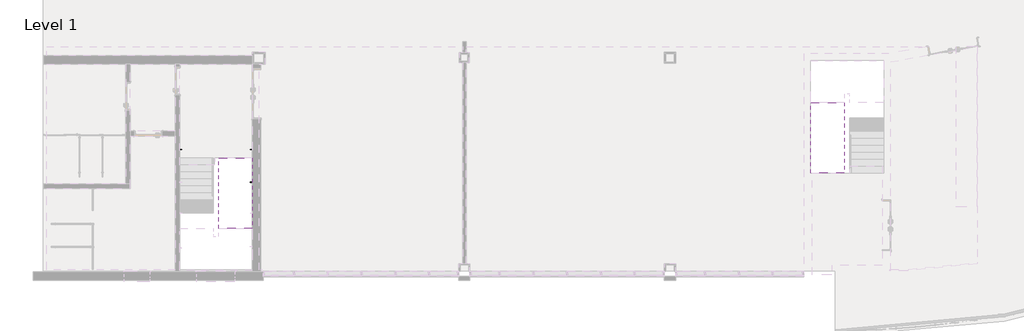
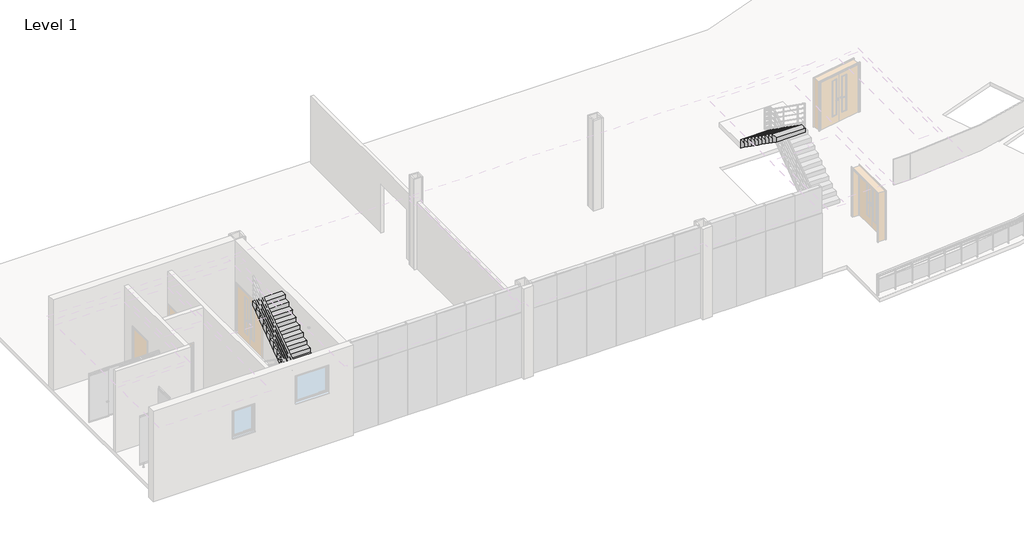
# One storey, part 10 of 12: 3 proxies, 2 stair flights.
"""IFC4 building model written with IfcOpenShell, lengths in millimetres."""

import ifcopenshell
import ifcopenshell.guid

model = None  # the IFC model being written
_history = None  # IfcOwnerHistory: only IFC2X3 demands one
_inside = {}  # id of a spatial element -> (the spatial element, [elements in it])
_under = {}  # id of a project, library or spatial element -> (it, [spatial elements below it])
_declared = {}  # id of a project -> (the project, [libraries it declares])
_typed = {}  # id of a type object -> (the type object, [elements of that type])
_made_of = {}  # id of a material, layer set ... -> (it, [elements and type objects made of it])


def new_model(schema):
    """Start an empty IFC model of exactly this schema.

    Asked for "IFC4X3", IfcOpenShell would pick the latest addendum, in which some entities
    have other attributes; the version numbers below select the first issue.
    IFC2X3 requires an IfcOwnerHistory on every rooted entity: one is made here for all.
    """
    global model, _history
    if schema == "IFC4X3":
        model = ifcopenshell.file(schema_version=(4, 3, 0, 0))
    else:
        model = ifcopenshell.file(schema=schema)
    _inside.clear()
    _under.clear()
    _declared.clear()
    _typed.clear()
    _made_of.clear()
    _history = None
    if model.schema == "IFC2X3":
        org = make("IfcOrganization", Name="unknown")
        user = make(
            "IfcPersonAndOrganization",
            ThePerson=make("IfcPerson", FamilyName="unknown"),
            TheOrganization=org,
        )
        app = make(
            "IfcApplication",
            ApplicationDeveloper=org,
            Version="unknown",
            ApplicationFullName="unknown",
            ApplicationIdentifier="unknown",
        )
        _history = make(
            "IfcOwnerHistory",
            OwningUser=user,
            OwningApplication=app,
            ChangeAction="ADDED",
            CreationDate=0,
        )
    return model


def make(cls, **values):
    """One entity of the class cls with the attributes given. An attribute that is None is left unset."""
    return model.create_entity(
        cls, **{name: value for name, value in values.items() if value is not None}
    )


def rooted(cls, **values):
    """An entity with a GlobalId (a new one), such as an element, a storey or a relation."""
    return make(cls, GlobalId=ifcopenshell.guid.new(), OwnerHistory=_history, **values)


def si_unit(unit_type, name, prefix=None):
    """IfcSIUnit, for example si_unit("LENGTHUNIT", "METRE", prefix="MILLI")."""
    return make("IfcSIUnit", UnitType=unit_type, Prefix=prefix, Name=name)


def assignment(units):
    """IfcUnitAssignment: the units of a project."""
    return None if units is None else make("IfcUnitAssignment", Units=units)


def point(xyz):
    """IfcCartesianPoint."""
    return None if xyz is None else make("IfcCartesianPoint", Coordinates=xyz)


def direction(xyz):
    """IfcDirection."""
    return None if xyz is None else make("IfcDirection", DirectionRatios=xyz)


def frame(location, z_axis=None, x_axis=None):
    """IfcAxis2Placement3D, a coordinate frame: its origin and axes. An axis left out is left unset."""
    return make(
        "IfcAxis2Placement3D",
        Location=point(location),
        Axis=direction(z_axis),
        RefDirection=direction(x_axis),
    )


def frame_2d(location, x_axis=None):
    """IfcAxis2Placement2D, a coordinate frame in the plane: its origin and x axis."""
    return make(
        "IfcAxis2Placement2D", Location=point(location), RefDirection=direction(x_axis)
    )


def origin():
    """The frame at (0, 0, 0) with its axes left unset."""
    return frame((0.0, 0.0, 0.0))


def origin_with_axes():
    """The frame at (0, 0, 0) with the z axis (0, 0, 1) and the x axis (1, 0, 0) written out."""
    return frame((0.0, 0.0, 0.0), z_axis=(0.0, 0.0, 1.0), x_axis=(1.0, 0.0, 0.0))


def place(relative_to, where):
    """IfcLocalPlacement: puts the frame where relative to a parent placement (None: the world)."""
    return make(
        "IfcLocalPlacement", PlacementRelTo=relative_to, RelativePlacement=where
    )


def context(
    kind, dimensions, precision=None, world=None, true_north=None, identifier=None
):
    """IfcGeometricRepresentationContext, for example the 3D "Model" context."""
    return make(
        "IfcGeometricRepresentationContext",
        ContextIdentifier=identifier,
        ContextType=kind,
        CoordinateSpaceDimension=dimensions,
        Precision=precision,
        WorldCoordinateSystem=world,
        TrueNorth=true_north,
    )


def project(units=None, contexts=None):
    """IfcProject with its units and contexts."""
    return rooted(
        "IfcProject",
        Name="project",
        RepresentationContexts=contexts,
        UnitsInContext=assignment(units),
    )


def spatial(cls, under=None, at=None, **own):
    """A site, building, storey or space (cls), placed at a placement, below another one or the project."""
    s = rooted(cls, ObjectPlacement=at, **own)
    if under is not None:
        _under.setdefault(under.id(), (under, []))[1].append(s)
    return s


def polyline(points):
    """IfcPolyline through the points."""
    return make("IfcPolyline", Points=[point(p) for p in points])


def circle_curve(where, radius):
    """IfcCircle in the frame where."""
    return make("IfcCircle", Position=where, Radius=radius)


def ellipse_curve(where, semi_axis1, semi_axis2):
    """IfcEllipse in the frame where."""
    return make(
        "IfcEllipse", Position=where, SemiAxis1=semi_axis1, SemiAxis2=semi_axis2
    )


def trimmed(basis, trim1, trim2, sense, master):
    """IfcTrimmedCurve: the piece of a basis curve between two trims."""
    return make(
        "IfcTrimmedCurve",
        BasisCurve=basis,
        Trim1=trim1,
        Trim2=trim2,
        SenseAgreement=sense,
        MasterRepresentation=master,
    )


def segment(curve, same_sense, transition):
    """IfcCompositeCurveSegment."""
    return make(
        "IfcCompositeCurveSegment",
        Transition=transition,
        SameSense=same_sense,
        ParentCurve=curve,
    )


def composite_curve(segments, self_intersect=None):
    """IfcCompositeCurve: segments joined end to end."""
    return make("IfcCompositeCurve", Segments=segments, SelfIntersect=self_intersect)


def outline(outer, holes=None, kind="AREA"):
    """IfcArbitraryClosedProfileDef: a profile drawn as a closed curve; with holes, ...WithVoids."""
    if holes is None:
        return make("IfcArbitraryClosedProfileDef", ProfileType=kind, OuterCurve=outer)
    return make(
        "IfcArbitraryProfileDefWithVoids",
        ProfileType=kind,
        OuterCurve=outer,
        InnerCurves=holes,
    )


def extrude(swept, where, along, depth):
    """IfcExtrudedAreaSolid: the profile swept, set in the frame where, extruded along a direction by depth."""
    return make(
        "IfcExtrudedAreaSolid",
        SweptArea=swept,
        Position=where,
        ExtrudedDirection=direction(along),
        Depth=depth,
    )


def faces_of(points, faces, orient=None, outer=None):
    """IfcFace entities. A face is a list of loops; a loop is a list of indices into points, from 0.

    orient and outer hold one flag for each loop. By default every Orientation is true, the
    first loop of a face is its IfcFaceOuterBound and the others are IfcFaceBound.
    """
    made = []
    for i, loops in enumerate(faces):
        bounds = []
        for j, loop in enumerate(loops):
            is_outer = j == 0 if outer is None else outer[i][j]
            bounds.append(
                make(
                    "IfcFaceOuterBound" if is_outer else "IfcFaceBound",
                    Bound=make("IfcPolyLoop", Polygon=[points[k] for k in loop]),
                    Orientation=True if orient is None else orient[i][j],
                )
            )
        made.append(make("IfcFace", Bounds=bounds))
    return made


def faceted_brep(points, faces, orient=None, outer=None, voids=None):
    """IfcFacetedBrep: a solid bounded by flat faces; with voids (closed shells), ...WithVoids."""
    shared = [point(p) for p in points]
    hull = make("IfcClosedShell", CfsFaces=faces_of(shared, faces, orient, outer))
    if voids is None:
        return make("IfcFacetedBrep", Outer=hull)
    return make(
        "IfcFacetedBrepWithVoids",
        Outer=hull,
        Voids=[
            make(cls, CfsFaces=faces_of(shared, fs, o, b)) for cls, fs, o, b in voids
        ],
    )


def shape(context_of_items, identifier, shape_type, items):
    """IfcShapeRepresentation: the items that make up one representation, for example the "Body"."""
    return make(
        "IfcShapeRepresentation",
        ContextOfItems=context_of_items,
        RepresentationIdentifier=identifier,
        RepresentationType=shape_type,
        Items=items,
    )


def source(mapping_origin, context_of_items, identifier, shape_type, items):
    """IfcRepresentationMap: a shape defined once, which mapped items show again and again."""
    return make(
        "IfcRepresentationMap",
        MappingOrigin=mapping_origin,
        MappedRepresentation=shape(context_of_items, identifier, shape_type, items),
    )


def transform(
    local_origin,
    x_axis=None,
    y_axis=None,
    z_axis=None,
    scale=None,
    scale2=None,
    scale3=None,
    uniform=True,
):
    """IfcCartesianTransformationOperator3D, or its non-uniform kind. x_axis, y_axis, z_axis: its Axis1, 2, 3."""
    if uniform:
        return make(
            "IfcCartesianTransformationOperator3D",
            Axis1=direction(x_axis),
            Axis2=direction(y_axis),
            LocalOrigin=point(local_origin),
            Scale=scale,
            Axis3=direction(z_axis),
        )
    return make(
        "IfcCartesianTransformationOperator3DnonUniform",
        Axis1=direction(x_axis),
        Axis2=direction(y_axis),
        LocalOrigin=point(local_origin),
        Scale=scale,
        Axis3=direction(z_axis),
        Scale2=scale2,
        Scale3=scale3,
    )


def mapped(mapping_source, mapping_target):
    """IfcMappedItem: shows the shape of a source again, moved by a transform."""
    return make(
        "IfcMappedItem", MappingSource=mapping_source, MappingTarget=mapping_target
    )


def made_of(thing, what):
    """Note that an element or type object is made of a material, layer set ...; save() writes the relation."""
    if what is not None:
        _made_of.setdefault(what.id(), (what, []))[1].append(thing)
    return thing


def element(
    cls,
    number,
    at=None,
    inside=None,
    cuts=None,
    type_object=None,
    material=None,
    context=None,
    identifier="Body",
    shape_type=None,
    held_by="IfcProductDefinitionShape",
    body=None,
    shapes=None,
    **own,
):
    """One element of the class cls, such as IfcWall. Its Tag is "e" and its number.

    at: its placement. inside: the storey or other place that contains it. cuts: it is an
    opening in that element (IfcRelVoidsElement). A single representation is given by context,
    identifier, shape_type and body (its items); several are given by shapes. held_by: the class
    of the entity that holds the representations. save() writes the other relations.
    """
    e = rooted(cls, Tag="e%d" % number, ObjectPlacement=at, **own)
    if body is not None:
        shapes = [shape(context, identifier, shape_type, body)]
    if shapes is not None:
        e.Representation = make(held_by, Representations=shapes)
    if inside is not None:
        _inside.setdefault(inside.id(), (inside, []))[1].append(e)
    if cuts is not None:
        rooted(
            "IfcRelVoidsElement", RelatingBuildingElement=cuts, RelatedOpeningElement=e
        )
    if type_object is not None:
        _typed.setdefault(type_object.id(), (type_object, []))[1].append(e)
    return made_of(e, material)


def aggregate(whole, parts):
    """IfcRelAggregates: a whole, such as a stair, and the parts it consists of."""
    return rooted("IfcRelAggregates", RelatingObject=whole, RelatedObjects=parts)


def save(model, path):
    """Write the relations noted so far, then the file.

    IfcRelAggregates (storeys below a building ...), IfcRelContainedInSpatialStructure (elements
    in a storey), IfcRelDefinesByType, IfcRelAssociatesMaterial and IfcRelDeclares: one each for
    every whole, place, type object, material and project.
    """
    for whole, parts in _under.values():
        aggregate(whole, parts)
    for where, things in _inside.values():
        rooted(
            "IfcRelContainedInSpatialStructure",
            RelatedElements=things,
            RelatingStructure=where,
        )
    for kind, things in _typed.values():
        rooted("IfcRelDefinesByType", RelatedObjects=things, RelatingType=kind)
    for what, things in _made_of.values():
        rooted("IfcRelAssociatesMaterial", RelatedObjects=things, RelatingMaterial=what)
    for by, libraries in _declared.values():
        rooted("IfcRelDeclares", RelatingContext=by, RelatedDefinitions=libraries)
    model.write(path)


def plane_surface(at):
    """IfcPlane: the flat surface through the origin of the frame at, square to its z axis."""
    return make("IfcPlane", Position=at)


def cylinder_surface(at, radius):
    """IfcCylindricalSurface: all points at the distance radius from the z axis of the frame at."""
    return make("IfcCylindricalSurface", Position=at, Radius=radius)


def revolved_surface(curve, axis_point, axis_direction):
    """IfcSurfaceOfRevolution: the curve turned about the line through axis_point along axis_direction."""
    return make(
        "IfcSurfaceOfRevolution",
        SweptCurve=make("IfcArbitraryOpenProfileDef", ProfileType="CURVE", Curve=curve),
        AxisPosition=make("IfcAxis1Placement", Location=point(axis_point), Axis=direction(axis_direction)),
    )


def advanced_brep(points, edges, surfaces, faces):
    """IfcAdvancedBrep: a solid bounded by faces that lie on surfaces and meet in shared edges.

    An edge is (start, end): straight between two places in points (the first is 0);
    or (start, end, curve); or (start, end, curve, False) where it runs against its curve.
    A face is (place in surfaces, loops), or (place, loops, False) where it looks against
    its surface's normal. A loop lists edges by number (the first is 1), with a minus sign
    where the edge is run from its end to its start. The first loop is the outer one.
    """
    corners = [point(p) for p in points]
    vertices = [make("IfcVertexPoint", VertexGeometry=c) for c in corners]
    made = []
    for start, end, *more in edges:
        made.append(
            make(
                "IfcEdgeCurve",
                EdgeStart=vertices[start],
                EdgeEnd=vertices[end],
                EdgeGeometry=more[0] if more else make("IfcPolyline", Points=[corners[start], corners[end]]),
                SameSense=more[1] if len(more) > 1 else True,
            )
        )
    hull = []
    for where, loops, *sense in faces:
        bounds = []
        for j, loop in enumerate(loops):
            ring = [make("IfcOrientedEdge", EdgeElement=made[abs(k) - 1], Orientation=k > 0) for k in loop]
            bounds.append(
                make(
                    "IfcFaceOuterBound" if j == 0 else "IfcFaceBound",
                    Bound=make("IfcEdgeLoop", EdgeList=ring),
                    Orientation=True,
                )
            )
        hull.append(make("IfcAdvancedFace", Bounds=bounds, FaceSurface=surfaces[where], SameSense=sense[0] if sense else True))
    return make("IfcAdvancedBrep", Outer=make("IfcClosedShell", CfsFaces=hull))


def support_metal_circular1_support_metal_circular_016e83f0(model_context):
    return source(origin(), model_context, "Body", "SolidModel", [
        advanced_brep(
        [(-6.0, 0.0, 0.0), (6.0, 0.0, 0.0), (-6.0, 0.0, -38.0), (6.0, 0.0, -38.0), (6.0, 12.0, -50.0), (-6.0, 12.0, -50.0), (-6.0, 63.0, -50.0), (6.0, 63.0, -50.0)],
        [
            (0, 1, circle_curve(origin_with_axes(), 6.0)),
            (1, 0, circle_curve(origin_with_axes(), 6.0)),
            (0, 2),
            (2, 3, circle_curve(frame((0.0, 0.0, -38.0), z_axis=(0.0, 0.0, 1.0), x_axis=(1.0, 0.0, 0.0)), 6.0)),
            (3, 1),
            (3, 2, circle_curve(frame((0.0, 0.0, -38.0), z_axis=(0.0, 0.0, 1.0), x_axis=(1.0, 0.0, 0.0)), 6.0)),
            (4, 3, circle_curve(frame((6.0, 12.0, -38.0), z_axis=(-1.0, 0.0, 0.0), x_axis=(0.0, -1.0, 0.0)), 12.0)),
            (2, 5, circle_curve(frame((-6.0, 12.0, -38.0), z_axis=(1.0, 0.0, 0.0), x_axis=(0.0, -1.0, 0.0)), 12.0)),
            (5, 4, circle_curve(frame((0.0, 12.0, -50.0), z_axis=(0.0, -1.0, 0.0), x_axis=(1.0, 0.0, 0.0)), 6.0)),
            (4, 5, circle_curve(frame((0.0, 12.0, -50.0), z_axis=(0.0, -1.0, 0.0), x_axis=(1.0, 0.0, 0.0)), 6.0)),
            (6, 7, circle_curve(frame((0.0, 63.0, -50.0), z_axis=(0.0, 1.0, 0.0), x_axis=(1.0, 0.0, 0.0)), 6.0)),
            (7, 6, circle_curve(frame((0.0, 63.0, -50.0), z_axis=(0.0, 1.0, 0.0), x_axis=(1.0, 0.0, 0.0)), 6.0)),
            (5, 6),
            (7, 4),
        ],
        [
            plane_surface(origin_with_axes()),
            cylinder_surface(origin_with_axes(), 6.0),
            revolved_surface(trimmed(ellipse_curve(frame((0.0, 0.0, -38.0), z_axis=(0.0, 0.0, 1.0), x_axis=(1.0, 0.0, 0.0)), 6.0, 6.0), [point((-6.0, 0.0, -38.0))], [point((6.0, 0.0, -38.0))], True, "CARTESIAN"), (0.0, 12.0, -38.0), (1.0, 0.0, 0.0)),
            revolved_surface(trimmed(ellipse_curve(frame((0.0, 0.0, -38.0), z_axis=(0.0, 0.0, 1.0), x_axis=(1.0, 0.0, 0.0)), 6.0, 6.0), [point((6.0, 0.0, -38.0))], [point((-6.0, 0.0, -38.0))], True, "CARTESIAN"), (0.0, 12.0, -38.0), (1.0, 0.0, 0.0)),
            plane_surface(frame((0.0, 63.0, -50.0), z_axis=(0.0, 1.0, 0.0), x_axis=(1.0, 0.0, 0.0))),
            cylinder_surface(frame((0.0, 12.0, -50.0), z_axis=(0.0, -1.0, 0.0), x_axis=(1.0, 0.0, 0.0)), 6.0),
        ],
        [
            (0, [[1, 2]]),
            (1, [[-1, 3, 4, 5]]),
            (1, [[-2, -5, 6, -3]]),
            (2, [[7, -4, 8, 9]]),
            (3, [[-8, -6, -7, 10]]),
            (4, [[11, 12]]),
            (5, [[-9, 13, -12, 14]]),
            (5, [[-10, -14, -11, -13]]),
        ],
    ),
        extrude(outline(composite_curve([segment(trimmed(circle_curve(frame_2d((-50.0, 0.0)), 25.0), [point((-50.0, -25.0))], [point((-50.0, 25.0))], False, "CARTESIAN"), True, "CONTINUOUS"), segment(trimmed(circle_curve(frame_2d((-50.0, 0.0)), 25.0), [point((-50.0, 25.0))], [point((-50.0, -25.0))], False, "CARTESIAN"), True, "CONTINUOUS")], self_intersect=False)), frame((0.0, 63.0, 0.0), z_axis=(0.0, 1.0, 0.0), x_axis=(0.0, 0.0, 1.0)), (0.0, 0.0, 1.0), 12.0),
    ])


model = new_model("IFC4")

# Units and contexts
model_context = context("Model", 3, world=origin())
ifc_project = project(units=[si_unit("LENGTHUNIT", "METRE", prefix="MILLI")], contexts=[model_context])

# Site, building, storey
site = spatial("IfcSite", under=ifc_project)
building = spatial("IfcBuilding", under=site)
storey = spatial("IfcBuildingStorey", under=building, Name="Level 1", Elevation=3900.0)

# Proxies
placement = place(None, origin())
support_metal_circular1_support_metal_circular_shape = support_metal_circular1_support_metal_circular_016e83f0(model_context)
element("IfcBuildingElementProxy", 1, Name="Support - Metal - Circular1 : Support - Metal - Circular", ObjectType="Support - Metal - Circular1 : Support - Metal - Circular", at=placement, inside=storey, context=model_context, shape_type="MappedRepresentation", body=[
    mapped(support_metal_circular1_support_metal_circular_shape, transform((5322.6000025, 4600.0, 4959.3919555), x_axis=(0.0, 1.0, 0.0), y_axis=(-1.0, 0.0, 0.0), z_axis=(0.0, 0.0, 1.0))),
])
element("IfcBuildingElementProxy", 2, Name="Support - Metal - Circular1 : Support - Metal - Circular", ObjectType="Support - Metal - Circular1 : Support - Metal - Circular", at=placement, inside=storey, context=model_context, shape_type="MappedRepresentation", body=[
    mapped(support_metal_circular1_support_metal_circular_shape, transform((7761.8000023, 3437.7155261, 4170.6811467), x_axis=(0.0, -1.0, 0.0), y_axis=(1.0, 0.0, 0.0), z_axis=(0.0, 0.0, 1.0))),
])
element("IfcBuildingElementProxy", 3, Name="Support - Metal - Circular1 : Support - Metal - Circular", ObjectType="Support - Metal - Circular1 : Support - Metal - Circular", at=placement, inside=storey, context=model_context, shape_type="MappedRepresentation", body=[
    mapped(support_metal_circular1_support_metal_circular_shape, transform((7761.8000023, 4600.0, 4782.1192282), x_axis=(0.0, -1.0, 0.0), y_axis=(1.0, 0.0, 0.0), z_axis=(0.0, 0.0, 1.0))),
])

# Stair flights
element("IfcStairFlight", 4, ObjectType="1/16\"_Tread-6\"_Depth", at=placement, inside=storey, context=model_context, shape_type="SolidModel", body=[
    faceted_brep([(6637.2000026, 2050.0, 6026.2727273), (6637.2000026, 1800.0, 6026.2727273), (7837.2000024, 1800.0, 6026.2727273), (7837.2000024, 2050.0, 6026.2727273), (6637.2000026, 2050.0, 5842.3890055), (6637.2000026, 1800.0, 5665.1162782), (6637.2000026, 1800.0, 5849.0), (7837.2000024, 1800.0, 5665.1162782), (7837.2000024, 1800.0, 5849.0), (7837.2000024, 2050.0, 5842.3890055), (6637.2000026, 2300.0, 6203.5454545), (6637.2000026, 2050.0, 6203.5454545), (7837.2000024, 2050.0, 6203.5454545), (7837.2000024, 2300.0, 6203.5454545), (6637.2000026, 2300.0, 6019.6617328), (7837.2000024, 2300.0, 6019.6617328), (6637.2000026, 2550.0, 6380.8181818), (6637.2000026, 2300.0, 6380.8181818), (7837.2000024, 2300.0, 6380.8181818), (7837.2000024, 2550.0, 6380.8181818), (6637.2000026, 2550.0, 6196.93446), (7837.2000024, 2550.0, 6196.93446), (6637.2000026, 2800.0, 6558.0909091), (6637.2000026, 2550.0, 6558.0909091), (7837.2000024, 2550.0, 6558.0909091), (7837.2000024, 2800.0, 6558.0909091), (6637.2000026, 2800.0, 6374.2071873), (7837.2000024, 2800.0, 6374.2071873), (6637.2000026, 3050.0, 6735.3636364), (6637.2000026, 2800.0, 6735.3636364), (7837.2000024, 2800.0, 6735.3636364), (7837.2000024, 3050.0, 6735.3636364), (6637.2000026, 3050.0, 6551.4799146), (7837.2000024, 3050.0, 6551.4799146), (6637.2000026, 3300.0, 6912.6363636), (6637.2000026, 3050.0, 6912.6363636), (7837.2000024, 3050.0, 6912.6363636), (7837.2000024, 3300.0, 6912.6363636), (6637.2000026, 3300.0, 6728.7526418), (7837.2000024, 3300.0, 6728.7526418), (6637.2000026, 3550.0, 7089.9090909), (6637.2000026, 3300.0, 7089.9090909), (7837.2000024, 3300.0, 7089.9090909), (7837.2000024, 3550.0, 7089.9090909), (6637.2000026, 3550.0, 6906.0253691), (7837.2000024, 3550.0, 6906.0253691), (6637.2000026, 3800.0, 7267.1818182), (6637.2000026, 3550.0, 7267.1818182), (7837.2000024, 3550.0, 7267.1818182), (7837.2000024, 3800.0, 7267.1818182), (6637.2000026, 3800.0, 7083.2980964), (7837.2000024, 3800.0, 7083.2980964), (6637.2000026, 4050.0, 7444.4545455), (6637.2000026, 3800.0, 7444.4545455), (7837.2000024, 3800.0, 7444.4545455), (7837.2000024, 4050.0, 7444.4545455), (6637.2000026, 4050.0, 7260.5708237), (7837.2000024, 4050.0, 7260.5708237), (6637.2000026, 4300.0, 7437.8435509), (7837.2000024, 4300.0, 7437.8435509), (6637.2000026, 4300.0, 7621.7272727), (6637.2000026, 4050.0, 7621.7272727), (7837.2000024, 4050.0, 7621.7272727), (7837.2000024, 4300.0, 7621.7272727)], [[[0, 1, 2, 3]], [[1, 0, 4, 5, 6]], [[2, 1, 6, 5, 7, 8]], [[3, 2, 8, 7, 9]], [[10, 11, 12, 13]], [[11, 10, 14, 4, 0]], [[12, 11, 0, 3]], [[13, 12, 3, 9, 15]], [[16, 17, 18, 19]], [[17, 16, 20, 14, 10]], [[18, 17, 10, 13]], [[19, 18, 13, 15, 21]], [[22, 23, 24, 25]], [[23, 22, 26, 20, 16]], [[24, 23, 16, 19]], [[25, 24, 19, 21, 27]], [[28, 29, 30, 31]], [[29, 28, 32, 26, 22]], [[30, 29, 22, 25]], [[31, 30, 25, 27, 33]], [[34, 35, 36, 37]], [[35, 34, 38, 32, 28]], [[36, 35, 28, 31]], [[37, 36, 31, 33, 39]], [[40, 41, 42, 43]], [[41, 40, 44, 38, 34]], [[42, 41, 34, 37]], [[43, 42, 37, 39, 45]], [[46, 47, 48, 49]], [[47, 46, 50, 44, 40]], [[48, 47, 40, 43]], [[49, 48, 43, 45, 51]], [[52, 53, 54, 55]], [[53, 52, 56, 50, 46]], [[54, 53, 46, 49]], [[55, 54, 49, 51, 57]], [[5, 4, 14, 20, 26, 32, 38, 44, 50, 56, 58, 59, 57, 51, 45, 39, 33, 27, 21, 15, 9, 7]], [[60, 61, 62, 63]], [[61, 60, 58, 56, 52]], [[62, 61, 52, 55]], [[63, 62, 55, 57, 59]], [[60, 63, 59, 58]]]),
    extrude(outline(polyline([(6637.2000026, 2050.0), (7837.2000024, 2050.0), (7837.2000024, 1800.0), (6637.2000026, 1800.0), (6637.2000026, 2050.0)])), frame((0.0, 0.0, 6026.2727273), z_axis=(0.0, 0.0, 1.0), x_axis=(1.0, 0.0, 0.0)), (0.0, 0.0, 1.0), 1.0),
    extrude(outline(polyline([(6637.2000026, 2300.0), (7837.2000024, 2300.0), (7837.2000024, 2050.0), (6637.2000026, 2050.0), (6637.2000026, 2300.0)])), frame((0.0, 0.0, 6203.5454545), z_axis=(0.0, 0.0, 1.0), x_axis=(1.0, 0.0, 0.0)), (0.0, 0.0, 1.0), 1.0),
    extrude(outline(polyline([(6637.2000026, 2550.0), (7837.2000024, 2550.0), (7837.2000024, 2300.0), (6637.2000026, 2300.0), (6637.2000026, 2550.0)])), frame((0.0, 0.0, 6380.8181818), z_axis=(0.0, 0.0, 1.0), x_axis=(1.0, 0.0, 0.0)), (0.0, 0.0, 1.0), 1.0),
    extrude(outline(polyline([(6637.2000026, 2800.0), (7837.2000024, 2800.0), (7837.2000024, 2550.0), (6637.2000026, 2550.0), (6637.2000026, 2800.0)])), frame((0.0, 0.0, 6558.0909091), z_axis=(0.0, 0.0, 1.0), x_axis=(1.0, 0.0, 0.0)), (0.0, 0.0, 1.0), 1.0),
    extrude(outline(polyline([(6637.2000026, 3050.0), (7837.2000024, 3050.0), (7837.2000024, 2800.0), (6637.2000026, 2800.0), (6637.2000026, 3050.0)])), frame((0.0, 0.0, 6735.3636364), z_axis=(0.0, 0.0, 1.0), x_axis=(1.0, 0.0, 0.0)), (0.0, 0.0, 1.0), 1.0),
    extrude(outline(polyline([(6637.2000026, 3300.0), (7837.2000024, 3300.0), (7837.2000024, 3050.0), (6637.2000026, 3050.0), (6637.2000026, 3300.0)])), frame((0.0, 0.0, 6912.6363636), z_axis=(0.0, 0.0, 1.0), x_axis=(1.0, 0.0, 0.0)), (0.0, 0.0, 1.0), 1.0),
    extrude(outline(polyline([(6637.2000026, 3550.0), (7837.2000024, 3550.0), (7837.2000024, 3300.0), (6637.2000026, 3300.0), (6637.2000026, 3550.0)])), frame((0.0, 0.0, 7089.9090909), z_axis=(0.0, 0.0, 1.0), x_axis=(1.0, 0.0, 0.0)), (0.0, 0.0, 1.0), 1.0),
    extrude(outline(polyline([(6637.2000026, 3800.0), (7837.2000024, 3800.0), (7837.2000024, 3550.0), (6637.2000026, 3550.0), (6637.2000026, 3800.0)])), frame((0.0, 0.0, 7267.1818182), z_axis=(0.0, 0.0, 1.0), x_axis=(1.0, 0.0, 0.0)), (0.0, 0.0, 1.0), 1.0),
    extrude(outline(polyline([(6637.2000026, 4050.0), (7837.2000024, 4050.0), (7837.2000024, 3800.0), (6637.2000026, 3800.0), (6637.2000026, 4050.0)])), frame((0.0, 0.0, 7444.4545455), z_axis=(0.0, 0.0, 1.0), x_axis=(1.0, 0.0, 0.0)), (0.0, 0.0, 1.0), 1.0),
    extrude(outline(polyline([(6637.2000026, 4300.0), (7837.2000024, 4300.0), (7837.2000024, 4050.0), (6637.2000026, 4050.0), (6637.2000026, 4300.0)])), frame((0.0, 0.0, 7621.7272727), z_axis=(0.0, 0.0, 1.0), x_axis=(1.0, 0.0, 0.0)), (0.0, 0.0, 1.0), 1.0),
])
element("IfcStairFlight", 5, ObjectType="1/16\"_Tread-6\"_Depth", at=placement, inside=storey, context=model_context, shape_type="SolidModel", body=[
    faceted_brep([(28862.2000029, 6013.2000006, 6026.2727273), (28862.2000029, 6263.2000006, 6026.2727273), (27662.2000031, 6263.2000006, 6026.2727273), (27662.2000031, 6013.2000006, 6026.2727273), (28862.2000029, 6013.2000006, 5842.3890055), (28862.2000029, 6263.2000006, 5665.1162782), (28862.2000029, 6263.2000006, 5849.0), (27662.2000031, 6263.2000006, 5665.1162782), (27662.2000031, 6263.2000006, 5849.0), (27662.2000031, 6013.2000006, 5842.3890055), (28862.2000029, 5763.2000006, 6203.5454545), (28862.2000029, 6013.2000006, 6203.5454545), (27662.2000031, 6013.2000006, 6203.5454545), (27662.2000031, 5763.2000006, 6203.5454545), (28862.2000029, 5763.2000006, 6019.6617328), (27662.2000031, 5763.2000006, 6019.6617328), (28862.2000029, 5513.2000006, 6380.8181818), (28862.2000029, 5763.2000006, 6380.8181818), (27662.2000031, 5763.2000006, 6380.8181818), (27662.2000031, 5513.2000006, 6380.8181818), (28862.2000029, 5513.2000006, 6196.93446), (27662.2000031, 5513.2000006, 6196.93446), (28862.2000029, 5263.2000006, 6558.0909091), (28862.2000029, 5513.2000006, 6558.0909091), (27662.2000031, 5513.2000006, 6558.0909091), (27662.2000031, 5263.2000006, 6558.0909091), (28862.2000029, 5263.2000006, 6374.2071873), (27662.2000031, 5263.2000006, 6374.2071873), (28862.2000029, 5013.2000006, 6735.3636364), (28862.2000029, 5263.2000006, 6735.3636364), (27662.2000031, 5263.2000006, 6735.3636364), (27662.2000031, 5013.2000006, 6735.3636364), (28862.2000029, 5013.2000006, 6551.4799146), (27662.2000031, 5013.2000006, 6551.4799146), (28862.2000029, 4763.2000006, 6912.6363636), (28862.2000029, 5013.2000006, 6912.6363636), (27662.2000031, 5013.2000006, 6912.6363636), (27662.2000031, 4763.2000006, 6912.6363636), (28862.2000029, 4763.2000006, 6728.7526418), (27662.2000031, 4763.2000006, 6728.7526418), (28862.2000029, 4513.2000006, 7089.9090909), (28862.2000029, 4763.2000006, 7089.9090909), (27662.2000031, 4763.2000006, 7089.9090909), (27662.2000031, 4513.2000006, 7089.9090909), (28862.2000029, 4513.2000006, 6906.0253691), (27662.2000031, 4513.2000006, 6906.0253691), (28862.2000029, 4263.2000006, 7267.1818182), (28862.2000029, 4513.2000006, 7267.1818182), (27662.2000031, 4513.2000006, 7267.1818182), (27662.2000031, 4263.2000006, 7267.1818182), (28862.2000029, 4263.2000006, 7083.2980964), (27662.2000031, 4263.2000006, 7083.2980964), (28862.2000029, 4013.2000006, 7444.4545455), (28862.2000029, 4263.2000006, 7444.4545455), (27662.2000031, 4263.2000006, 7444.4545455), (27662.2000031, 4013.2000006, 7444.4545455), (28862.2000029, 4013.2000006, 7260.5708237), (27662.2000031, 4013.2000006, 7260.5708237), (28862.2000029, 3763.2000006, 7437.8435509), (27662.2000031, 3763.2000006, 7437.8435509), (28862.2000029, 3763.2000006, 7621.7272727), (28862.2000029, 4013.2000006, 7621.7272727), (27662.2000031, 4013.2000006, 7621.7272727), (27662.2000031, 3763.2000006, 7621.7272727)], [[[0, 1, 2, 3]], [[1, 0, 4, 5, 6]], [[2, 1, 6, 5, 7, 8]], [[3, 2, 8, 7, 9]], [[10, 11, 12, 13]], [[11, 10, 14, 4, 0]], [[12, 11, 0, 3]], [[13, 12, 3, 9, 15]], [[16, 17, 18, 19]], [[17, 16, 20, 14, 10]], [[18, 17, 10, 13]], [[19, 18, 13, 15, 21]], [[22, 23, 24, 25]], [[23, 22, 26, 20, 16]], [[24, 23, 16, 19]], [[25, 24, 19, 21, 27]], [[28, 29, 30, 31]], [[29, 28, 32, 26, 22]], [[30, 29, 22, 25]], [[31, 30, 25, 27, 33]], [[34, 35, 36, 37]], [[35, 34, 38, 32, 28]], [[36, 35, 28, 31]], [[37, 36, 31, 33, 39]], [[40, 41, 42, 43]], [[41, 40, 44, 38, 34]], [[42, 41, 34, 37]], [[43, 42, 37, 39, 45]], [[46, 47, 48, 49]], [[47, 46, 50, 44, 40]], [[48, 47, 40, 43]], [[49, 48, 43, 45, 51]], [[52, 53, 54, 55]], [[53, 52, 56, 50, 46]], [[54, 53, 46, 49]], [[55, 54, 49, 51, 57]], [[5, 4, 14, 20, 26, 32, 38, 44, 50, 56, 58, 59, 57, 51, 45, 39, 33, 27, 21, 15, 9, 7]], [[60, 61, 62, 63]], [[61, 60, 58, 56, 52]], [[62, 61, 52, 55]], [[63, 62, 55, 57, 59]], [[60, 63, 59, 58]]]),
    extrude(outline(polyline([(28862.2000029, 6013.2000006), (27662.2000031, 6013.2000006), (27662.2000031, 6263.2000006), (28862.2000029, 6263.2000006), (28862.2000029, 6013.2000006)])), frame((0.0, 0.0, 6026.2727273), z_axis=(0.0, 0.0, 1.0), x_axis=(1.0, 0.0, 0.0)), (0.0, 0.0, 1.0), 1.0),
    extrude(outline(polyline([(28862.2000029, 5763.2000006), (27662.2000031, 5763.2000006), (27662.2000031, 6013.2000006), (28862.2000029, 6013.2000006), (28862.2000029, 5763.2000006)])), frame((0.0, 0.0, 6203.5454545), z_axis=(0.0, 0.0, 1.0), x_axis=(1.0, 0.0, 0.0)), (0.0, 0.0, 1.0), 1.0),
    extrude(outline(polyline([(28862.2000029, 5513.2000006), (27662.2000031, 5513.2000006), (27662.2000031, 5763.2000006), (28862.2000029, 5763.2000006), (28862.2000029, 5513.2000006)])), frame((0.0, 0.0, 6380.8181818), z_axis=(0.0, 0.0, 1.0), x_axis=(1.0, 0.0, 0.0)), (0.0, 0.0, 1.0), 1.0),
    extrude(outline(polyline([(28862.2000029, 5263.2000006), (27662.2000031, 5263.2000006), (27662.2000031, 5513.2000006), (28862.2000029, 5513.2000006), (28862.2000029, 5263.2000006)])), frame((0.0, 0.0, 6558.0909091), z_axis=(0.0, 0.0, 1.0), x_axis=(1.0, 0.0, 0.0)), (0.0, 0.0, 1.0), 1.0),
    extrude(outline(polyline([(28862.2000029, 5013.2000006), (27662.2000031, 5013.2000006), (27662.2000031, 5263.2000006), (28862.2000029, 5263.2000006), (28862.2000029, 5013.2000006)])), frame((0.0, 0.0, 6735.3636364), z_axis=(0.0, 0.0, 1.0), x_axis=(1.0, 0.0, 0.0)), (0.0, 0.0, 1.0), 1.0),
    extrude(outline(polyline([(28862.2000029, 4763.2000006), (27662.2000031, 4763.2000006), (27662.2000031, 5013.2000006), (28862.2000029, 5013.2000006), (28862.2000029, 4763.2000006)])), frame((0.0, 0.0, 6912.6363636), z_axis=(0.0, 0.0, 1.0), x_axis=(1.0, 0.0, 0.0)), (0.0, 0.0, 1.0), 1.0),
    extrude(outline(polyline([(28862.2000029, 4513.2000006), (27662.2000031, 4513.2000006), (27662.2000031, 4763.2000006), (28862.2000029, 4763.2000006), (28862.2000029, 4513.2000006)])), frame((0.0, 0.0, 7089.9090909), z_axis=(0.0, 0.0, 1.0), x_axis=(1.0, 0.0, 0.0)), (0.0, 0.0, 1.0), 1.0),
    extrude(outline(polyline([(28862.2000029, 4263.2000006), (27662.2000031, 4263.2000006), (27662.2000031, 4513.2000006), (28862.2000029, 4513.2000006), (28862.2000029, 4263.2000006)])), frame((0.0, 0.0, 7267.1818182), z_axis=(0.0, 0.0, 1.0), x_axis=(1.0, 0.0, 0.0)), (0.0, 0.0, 1.0), 1.0),
    extrude(outline(polyline([(28862.2000029, 4013.2000006), (27662.2000031, 4013.2000006), (27662.2000031, 4263.2000006), (28862.2000029, 4263.2000006), (28862.2000029, 4013.2000006)])), frame((0.0, 0.0, 7444.4545455), z_axis=(0.0, 0.0, 1.0), x_axis=(1.0, 0.0, 0.0)), (0.0, 0.0, 1.0), 1.0),
    extrude(outline(polyline([(28862.2000029, 3763.2000006), (27662.2000031, 3763.2000006), (27662.2000031, 4013.2000006), (28862.2000029, 4013.2000006), (28862.2000029, 3763.2000006)])), frame((0.0, 0.0, 7621.7272727), z_axis=(0.0, 0.0, 1.0), x_axis=(1.0, 0.0, 0.0)), (0.0, 0.0, 1.0), 1.0),
])

save(model, "model.ifc")
